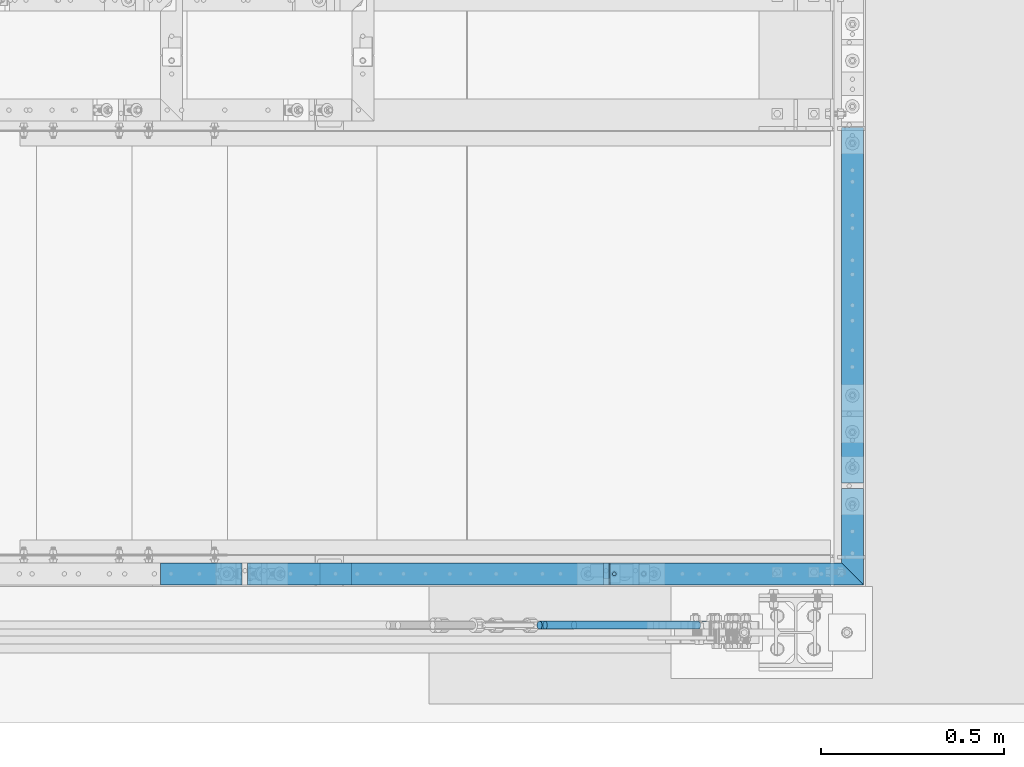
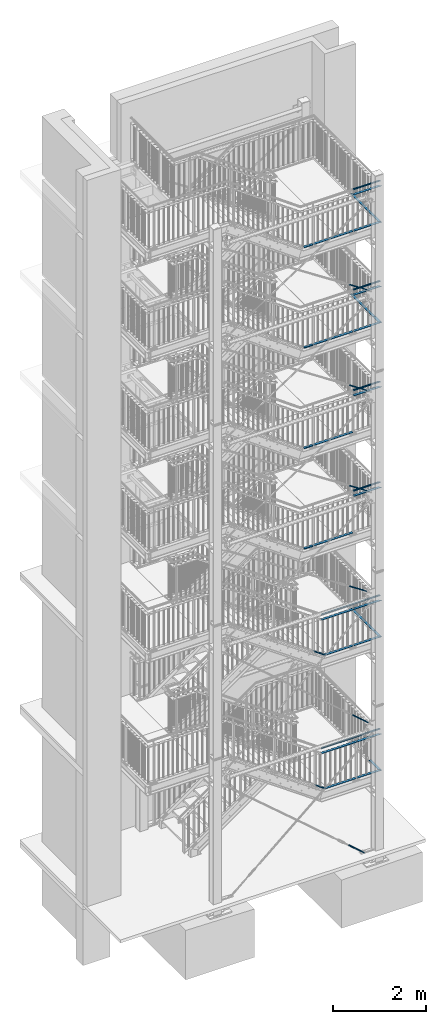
# One storey, part 141 of 831: 37 beams, 8 members, 24 openings.
"""IFC2X3 building model written with IfcOpenShell, lengths in millimetres."""

from ifc_helpers import new_model, entity, si_unit, converted_unit, frame, origin, origin_with_axes, origin_2d, origin_2d_with_axis, place, context, project, spatial, polyline, rectangle, circle, hollow_circle, outline, extrude, clip, halfspace, material, element, save


model = new_model("IFC2X3")

# Units and contexts
model_context = context("Model", 3, precision=1e-09, world=origin_with_axes())
ifc_project = project(units=[si_unit("LENGTHUNIT", "METRE", prefix="MILLI"), si_unit("AREAUNIT", "SQUARE_METRE"), si_unit("VOLUMEUNIT", "CUBIC_METRE"), converted_unit("PLANEANGLEUNIT", "DEGREE", entity("IfcPlaneAngleMeasure", 0.01745329), si_unit("PLANEANGLEUNIT", "RADIAN"), dimensions=[0, 0, 0, 0, 0, 0, 0])], contexts=[model_context])

# Site, building, storey
site_placement = place(None, origin_with_axes())
site = spatial("IfcSite", under=ifc_project, at=site_placement, Name="Site", CompositionType="ELEMENT")
building_placement = place(site_placement, origin_with_axes())
building = spatial("IfcBuilding", under=site, at=building_placement, Name="Struktur 1", CompositionType="ELEMENT")
storey_placement = place(building_placement, origin_with_axes())
storey = spatial("IfcBuildingStorey", under=building, at=storey_placement, Name="Default Storey", CompositionType="ELEMENT", Elevation=0.0)

# Beam, openings
ifc_material = material(Name="S235JR")
beam_1_placement = place(None, frame((9021.713402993, 5751.73611476, 13961.5000001), z_axis=(0.0, 1.0, 0.0), x_axis=(0.0, 0.0, -1.0)))
beam_1 = element("IfcBeam", 1, at=beam_1_placement, inside=storey, material=ifc_material, Name="Railing_Kneerail_Landing#10", ObjectType="Railing_Kneerail_Landing#10", context=model_context, shape_type="SweptSolid", body=[
    extrude(rectangle(XDim=10.0, YDim=60.0, at=origin_2d()), origin(), (0.0, 0.0, -1.0), 985.000142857),
])
opening_1_placement = place(beam_1_placement, frame((60.0, 0.0, -985.000142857), z_axis=(-1.0, 0.0, 0.0), x_axis=(0.0, -1.0, 0.0)))
element("IfcOpeningElement", 2, at=opening_1_placement, cuts=beam_1, ObjectType="Opening", context=model_context, shape_type="SweptSolid", body=[
    extrude(outline(polyline([(-30.001, 977.499142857), (30.001, 977.499142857), (30.001, 992.501142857), (-30.001, 992.501142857), (-30.001, 977.499142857)])), origin(), (0.0, 0.0, 1.0), 120.0),
])
opening_2_placement = place(beam_1_placement, frame((60.0, 0.0, -985.000142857), z_axis=(-1.0, 0.0, 0.0), x_axis=(0.0, -1.0, 0.0)))
element("IfcOpeningElement", 3, at=opening_2_placement, cuts=beam_1, ObjectType="Opening", context=model_context, shape_type="SweptSolid", body=[
    extrude(outline(polyline([(-30.001, -7.501), (30.001, -7.501), (30.001, 7.501), (-30.001, 7.501), (-30.001, -7.501)])), origin(), (0.0, 0.0, 1.0), 120.0),
])

# Beam
beam_2_placement = place(None, frame((9021.713402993, 4759.235971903, 13961.5000001), z_axis=(0.0, 1.0, 0.0), x_axis=(0.0, 0.0, -1.0)))
element("IfcBeam", 4, at=beam_2_placement, inside=storey, material=ifc_material, Name="Railing_Kneerail_Landing#11", ObjectType="Railing_Kneerail_Landing#11", context=model_context, shape_type="Clipping", body=[
    clip(extrude(rectangle(XDim=10.0, YDim=60.0, at=origin_2d()), origin(), (0.0, 0.0, -1.0), 275.510626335), halfspace(frame((13961.5000001, 2247.487508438, 2014.989922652), z_axis=(0.0, -0.707106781, 0.707106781), x_axis=(0.0, 0.707106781, 0.707106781)), True)),
])

# Beam, opening
beam_3_placement = place(None, frame((9064.725029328, 4526.736971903, 13961.5000001), z_axis=(1.0, 0.0, 0.0), x_axis=(0.0, 0.0, -1.0)))
beam_3 = element("IfcBeam", 5, at=beam_3_placement, inside=storey, material=ifc_material, Name="Railing_Kneerail_Landing#12", ObjectType="Railing_Kneerail_Landing#12", context=model_context, shape_type="Clipping", body=[
    clip(extrude(rectangle(XDim=10.0, YDim=60.0, at=origin_2d()), origin(), (0.0, 0.0, -1.0), 704.432769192), halfspace(frame((13961.5000001, 2247.487508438, -2290.500548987), z_axis=(0.0, -0.707106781, -0.707106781), x_axis=(0.0, -0.707106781, 0.707106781)), True)),
])
opening_3_placement = place(beam_3_placement, frame((5.5, 0.0, -692.432769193), z_axis=(-1.0, 0.0, 0.0), x_axis=(0.0, 0.0, 1.0)))
element("IfcOpeningElement", 6, at=opening_3_placement, cuts=beam_3, ObjectType="Opening", context=model_context, shape_type="SweptSolid", body=[
    extrude(circle(Radius=5.001, at=origin_2d_with_axis()), origin(), (0.0, 0.0, 1.0), 11.0),
])

# Beam, openings
beam_4_placement = place(None, frame((8349.792260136, 4526.736971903, 13961.5000001), z_axis=(1.0, 0.0, 0.0), x_axis=(0.0, 0.0, -1.0)))
beam_4 = element("IfcBeam", 7, at=beam_4_placement, inside=storey, material=ifc_material, Name="Railing_Kneerail_Landing#13", ObjectType="Railing_Kneerail_Landing#13", context=model_context, shape_type="SweptSolid", body=[
    extrude(rectangle(XDim=10.0, YDim=60.0, at=origin_2d()), origin(), (0.0, 0.0, -1.0), 985.000142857),
])
opening_4_placement = place(beam_4_placement, frame((60.0, 0.0, -985.000142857), z_axis=(-1.0, 0.0, 0.0), x_axis=(0.0, 0.0, 1.0)))
element("IfcOpeningElement", 8, at=opening_4_placement, cuts=beam_4, ObjectType="Opening", context=model_context, shape_type="SweptSolid", body=[
    extrude(outline(polyline([(977.499142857, 30.001), (977.499142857, -30.001), (992.501142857, -30.001), (992.501142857, 30.001), (977.499142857, 30.001)])), origin(), (0.0, 0.0, 1.0), 120.0),
])
opening_5_placement = place(beam_4_placement, frame((60.0, 0.0, -985.000142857), z_axis=(-1.0, 0.0, 0.0), x_axis=(0.0, 0.0, 1.0)))
element("IfcOpeningElement", 9, at=opening_5_placement, cuts=beam_4, ObjectType="Opening", context=model_context, shape_type="SweptSolid", body=[
    extrude(outline(polyline([(-7.501, 30.001), (-7.501, -30.001), (7.501, -30.001), (7.501, 30.001), (-7.501, 30.001)])), origin(), (0.0, 0.0, 1.0), 120.0),
])

# Beam
beam_5_placement = place(None, frame((7357.292117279, 4526.736971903, 13961.5000001), z_axis=(1.0, 0.0, 0.0), x_axis=(0.0, 0.0, -1.0)))
element("IfcBeam", 10, at=beam_5_placement, inside=storey, material=ifc_material, Name="Railing_Kneerail_Landing#14", ObjectType="Railing_Kneerail_Landing#14", context=model_context, shape_type="SweptSolid", body=[
    extrude(rectangle(XDim=10.0, YDim=60.0, at=origin_2d()), origin(), (0.0, 0.0, -1.0), 222.645131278),
])

# Beam, openings
beam_6_placement = place(None, frame((9021.713402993, 5751.736114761, 16589.0000003), z_axis=(0.0, 1.0, 0.0), x_axis=(0.0, 0.0, -1.0)))
beam_6 = element("IfcBeam", 11, at=beam_6_placement, inside=storey, material=ifc_material, Name="Railing_Kneerail_Landing#10", ObjectType="Railing_Kneerail_Landing#10", context=model_context, shape_type="SweptSolid", body=[
    extrude(rectangle(XDim=10.0, YDim=60.0, at=origin_2d()), origin(), (0.0, 0.0, -1.0), 985.000142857),
])
opening_6_placement = place(beam_6_placement, frame((60.0, 0.0, -985.000142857), z_axis=(-1.0, 0.0, 0.0), x_axis=(0.0, -1.0, 0.0)))
element("IfcOpeningElement", 12, at=opening_6_placement, cuts=beam_6, ObjectType="Opening", context=model_context, shape_type="SweptSolid", body=[
    extrude(outline(polyline([(-30.001, 977.499142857), (30.001, 977.499142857), (30.001, 992.501142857), (-30.001, 992.501142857), (-30.001, 977.499142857)])), origin(), (0.0, 0.0, 1.0), 120.0),
])
opening_7_placement = place(beam_6_placement, frame((60.0, 0.0, -985.000142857), z_axis=(-1.0, 0.0, 0.0), x_axis=(0.0, -1.0, 0.0)))
element("IfcOpeningElement", 13, at=opening_7_placement, cuts=beam_6, ObjectType="Opening", context=model_context, shape_type="SweptSolid", body=[
    extrude(outline(polyline([(-30.001, -7.501), (30.001, -7.501), (30.001, 7.501), (-30.001, 7.501), (-30.001, -7.501)])), origin(), (0.0, 0.0, 1.0), 120.0),
])

# Beam
beam_7_placement = place(None, frame((9021.713402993, 4759.235971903, 16589.0000003), z_axis=(0.0, 1.0, 0.0), x_axis=(0.0, 0.0, -1.0)))
element("IfcBeam", 14, at=beam_7_placement, inside=storey, material=ifc_material, Name="Railing_Kneerail_Landing#11", ObjectType="Railing_Kneerail_Landing#11", context=model_context, shape_type="Clipping", body=[
    clip(extrude(rectangle(XDim=10.0, YDim=60.0, at=origin_2d()), origin(), (0.0, 0.0, -1.0), 275.510626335), halfspace(frame((16589.0000003, 2247.487508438, 2014.989922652), z_axis=(0.0, -0.707106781, 0.707106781), x_axis=(0.0, 0.707106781, 0.707106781)), True)),
])

# Beam, opening
beam_8_placement = place(None, frame((9064.725029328, 4526.736971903, 16589.0000003), z_axis=(1.0, 0.0, 0.0), x_axis=(0.0, 0.0, -1.0)))
beam_8 = element("IfcBeam", 15, at=beam_8_placement, inside=storey, material=ifc_material, Name="Railing_Kneerail_Landing#12", ObjectType="Railing_Kneerail_Landing#12", context=model_context, shape_type="Clipping", body=[
    clip(extrude(rectangle(XDim=10.0, YDim=60.0, at=origin_2d()), origin(), (0.0, 0.0, -1.0), 704.432769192), halfspace(frame((16589.0000003, 2247.487508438, -2290.500548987), z_axis=(0.0, -0.707106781, -0.707106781), x_axis=(0.0, -0.707106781, 0.707106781)), True)),
])
opening_8_placement = place(beam_8_placement, frame((5.5, 0.0, -692.432769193), z_axis=(-1.0, 0.0, 0.0), x_axis=(0.0, 0.0, 1.0)))
element("IfcOpeningElement", 16, at=opening_8_placement, cuts=beam_8, ObjectType="Opening", context=model_context, shape_type="SweptSolid", body=[
    extrude(circle(Radius=5.001, at=origin_2d_with_axis()), origin(), (0.0, 0.0, 1.0), 11.0),
])

# Beam, openings
beam_9_placement = place(None, frame((8349.792260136, 4526.736971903, 16589.0000003), z_axis=(1.0, 0.0, 0.0), x_axis=(0.0, 0.0, -1.0)))
beam_9 = element("IfcBeam", 17, at=beam_9_placement, inside=storey, material=ifc_material, Name="Railing_Kneerail_Landing#13", ObjectType="Railing_Kneerail_Landing#13", context=model_context, shape_type="SweptSolid", body=[
    extrude(rectangle(XDim=10.0, YDim=60.0, at=origin_2d()), origin(), (0.0, 0.0, -1.0), 985.000142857),
])
opening_9_placement = place(beam_9_placement, frame((60.0, 0.0, -985.000142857), z_axis=(-1.0, 0.0, 0.0), x_axis=(0.0, 0.0, 1.0)))
element("IfcOpeningElement", 18, at=opening_9_placement, cuts=beam_9, ObjectType="Opening", context=model_context, shape_type="SweptSolid", body=[
    extrude(outline(polyline([(977.499142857, 30.001), (977.499142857, -30.001), (992.501142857, -30.001), (992.501142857, 30.001), (977.499142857, 30.001)])), origin(), (0.0, 0.0, 1.0), 120.0),
])
opening_10_placement = place(beam_9_placement, frame((60.0, 0.0, -985.000142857), z_axis=(-1.0, 0.0, 0.0), x_axis=(0.0, 0.0, 1.0)))
element("IfcOpeningElement", 19, at=opening_10_placement, cuts=beam_9, ObjectType="Opening", context=model_context, shape_type="SweptSolid", body=[
    extrude(outline(polyline([(-7.501, 30.001), (-7.501, -30.001), (7.501, -30.001), (7.501, 30.001), (-7.501, 30.001)])), origin(), (0.0, 0.0, 1.0), 120.0),
])

# Beams
beam_10_placement = place(None, frame((7357.292117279, 4526.736971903, 16589.0000003), z_axis=(1.0, 0.0, 0.0), x_axis=(0.0, 0.0, -1.0)))
element("IfcBeam", 20, at=beam_10_placement, inside=storey, material=ifc_material, Name="Railing_Kneerail_Landing#14", ObjectType="Railing_Kneerail_Landing#14", context=model_context, shape_type="SweptSolid", body=[
    extrude(rectangle(XDim=10.0, YDim=60.0, at=origin_2d()), origin(), (0.0, 0.0, -1.0), 222.43350809),
])
beam_11_placement = place(None, frame((8437.674109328, 4526.736971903, 3194.8526312), z_axis=(1.0, 0.0, 0.0), x_axis=(0.0, 0.0, -1.0)))
element("IfcBeam", 21, at=beam_11_placement, inside=storey, material=ifc_material, Name="Railing_Kneerail_Landing#1011", ObjectType="Railing_Kneerail_Landing#1011", context=model_context, shape_type="SweptSolid", body=[
    extrude(rectangle(XDim=10.0, YDim=60.0, at=origin_2d()), origin(), (0.0, 0.0, -1.0), 867.736420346),
])
beam_12_placement = place(None, frame((9055.313402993, 4535.536971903, 3321.0526312), z_axis=(1.0, 0.0, 0.0), x_axis=(0.0, 0.0, -1.0)))
element("IfcBeam", 22, at=beam_12_placement, inside=storey, material=ifc_material, Name="Railing_Handrail_Landing#5", ObjectType="Railing_Handrail_Landing#5", context=model_context, shape_type="Clipping", body=[
    clip(extrude(hollow_circle(Radius=21.2, WallThickness=3.2, at=origin_2d()), origin(), (0.0, 0.0, -1.0), 614.639293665), halfspace(frame((3321.0526312, 2238.687508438, -2281.088922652), z_axis=(0.0, -0.707106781, -0.707106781), x_axis=(0.0, -0.707106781, 0.707106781)), True)),
])
beam_13_placement = place(None, frame((8437.674109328, 4535.536971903, 3321.0526312), z_axis=(1.0, 0.0, 0.0), x_axis=(0.0, 0.0, -1.0)))
element("IfcBeam", 23, at=beam_13_placement, inside=storey, material=ifc_material, Name="Railing_Handrail_Landing#5", ObjectType="Railing_Handrail_Landing#5", context=model_context, shape_type="Clipping", body=[
    clip(extrude(hollow_circle(Radius=21.2, WallThickness=3.2, at=origin_2d()), origin(), (0.0, 0.0, -1.0), 892.436103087), halfspace(frame((5210.397729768, -4535.536971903, -2526.250453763), z_axis=(0.304437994, 0.0, 0.952532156), x_axis=(0.0, 1.0, 0.0)), True)),
])

# Beam, opening
beam_14_placement = place(None, frame((9064.725029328, 4526.736971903, 3194.8526312), z_axis=(1.0, 0.0, 0.0), x_axis=(0.0, 0.0, -1.0)))
beam_14 = element("IfcBeam", 24, at=beam_14_placement, inside=storey, material=ifc_material, Name="Railing_Kneerail_Landing#10", ObjectType="Railing_Kneerail_Landing#10", context=model_context, shape_type="Clipping", body=[
    clip(extrude(rectangle(XDim=10.0, YDim=60.0, at=origin_2d()), origin(), (0.0, 0.0, -1.0), 624.05092), halfspace(frame((3194.8526312, 2247.487508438, -2290.500548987), z_axis=(0.0, -0.707106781, -0.707106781), x_axis=(0.0, -0.707106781, 0.707106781)), True)),
])
opening_11_placement = place(beam_14_placement, frame((5.5, 0.0, -612.050920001), z_axis=(-1.0, 0.0, 0.0), x_axis=(0.0, 0.0, 1.0)))
element("IfcOpeningElement", 25, at=opening_11_placement, cuts=beam_14, ObjectType="Opening", context=model_context, shape_type="SweptSolid", body=[
    extrude(circle(Radius=5.001, at=origin_2d_with_axis()), origin(), (0.0, 0.0, 1.0), 11.0),
])

# Beams
beam_15_placement = place(None, frame((9055.313402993, 4535.536971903, 6814.8947367), z_axis=(1.0, 0.0, 0.0), x_axis=(0.0, 0.0, -1.0)))
element("IfcBeam", 26, at=beam_15_placement, inside=storey, material=ifc_material, Name="Railing_Handrail_Landing#6", ObjectType="Railing_Handrail_Landing#6", context=model_context, shape_type="Clipping", body=[
    clip(extrude(hollow_circle(Radius=21.2, WallThickness=3.2, at=origin_2d()), origin(), (0.0, 0.0, -1.0), 695.021142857), halfspace(frame((6814.8947367, 2238.687508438, -2281.088922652), z_axis=(0.0, -0.707106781, -0.707106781), x_axis=(0.0, -0.707106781, 0.707106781)), True)),
])
beam_16_placement = place(None, frame((8357.292260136, 4535.536971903, 6814.8947367), z_axis=(1.0, 0.0, 0.0), x_axis=(0.0, 0.0, -1.0)))
element("IfcBeam", 27, at=beam_16_placement, inside=storey, material=ifc_material, Name="Railing_Handrail_Landing#6", ObjectType="Railing_Handrail_Landing#6", context=model_context, shape_type="Clipping", body=[
    clip(extrude(hollow_circle(Radius=21.2, WallThickness=3.2, at=origin_2d()), origin(), (0.0, 0.0, -1.0), 812.024564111), halfspace(frame((8373.746157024, -4535.536971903, -3429.538535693), z_axis=(0.301609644, 0.0, 0.953431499), x_axis=(0.0, 1.0, 0.0)), True)),
])

# Beam, opening
beam_17_placement = place(None, frame((9064.725029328, 4526.736971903, 6688.6947367), z_axis=(1.0, 0.0, 0.0), x_axis=(0.0, 0.0, -1.0)))
beam_17 = element("IfcBeam", 28, at=beam_17_placement, inside=storey, material=ifc_material, Name="Railing_Kneerail_Landing#1012", ObjectType="Railing_Kneerail_Landing#1012", context=model_context, shape_type="Clipping", body=[
    clip(extrude(rectangle(XDim=10.0, YDim=60.0, at=origin_2d()), origin(), (0.0, 0.0, -1.0), 704.432769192), halfspace(frame((6688.6947367, 2247.487508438, -2290.500548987), z_axis=(0.0, -0.707106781, -0.707106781), x_axis=(0.0, -0.707106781, 0.707106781)), True)),
])
opening_12_placement = place(beam_17_placement, frame((5.5, 0.0, -692.432769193), z_axis=(-1.0, 0.0, 0.0), x_axis=(0.0, 0.0, 1.0)))
element("IfcOpeningElement", 29, at=opening_12_placement, cuts=beam_17, ObjectType="Opening", context=model_context, shape_type="SweptSolid", body=[
    extrude(circle(Radius=5.001, at=origin_2d_with_axis()), origin(), (0.0, 0.0, 1.0), 11.0),
])

# Beam
beam_18_placement = place(None, frame((8357.292260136, 4526.736971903, 6688.6947367), z_axis=(1.0, 0.0, 0.0), x_axis=(0.0, 0.0, -1.0)))
element("IfcBeam", 30, at=beam_18_placement, inside=storey, material=ifc_material, Name="Railing_Kneerail_Landing#1012", ObjectType="Railing_Kneerail_Landing#1012", context=model_context, shape_type="SweptSolid", body=[
    extrude(rectangle(XDim=10.0, YDim=60.0, at=origin_2d()), origin(), (0.0, 0.0, -1.0), 787.285290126),
])

# Beam, opening
beam_19_placement = place(None, frame((9064.725029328, 4526.736971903, 9649.8), z_axis=(1.0, 0.0, 0.0), x_axis=(0.0, 0.0, -1.0)))
beam_19 = element("IfcBeam", 31, at=beam_19_placement, inside=storey, material=ifc_material, Name="Railing_Kneerail_Landing#1014", ObjectType="Railing_Kneerail_Landing#1014", context=model_context, shape_type="Clipping", body=[
    clip(extrude(rectangle(XDim=10.0, YDim=60.0, at=origin_2d()), origin(), (0.0, 0.0, -1.0), 704.432769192), halfspace(frame((9649.8, 2247.487508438, -2290.500548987), z_axis=(0.0, -0.707106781, -0.707106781), x_axis=(0.0, -0.707106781, 0.707106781)), True)),
])
opening_13_placement = place(beam_19_placement, frame((5.5, 0.0, -692.432769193), z_axis=(-1.0, 0.0, 0.0), x_axis=(0.0, 0.0, 1.0)))
element("IfcOpeningElement", 32, at=opening_13_placement, cuts=beam_19, ObjectType="Opening", context=model_context, shape_type="SweptSolid", body=[
    extrude(circle(Radius=5.001, at=origin_2d_with_axis()), origin(), (0.0, 0.0, 1.0), 11.0),
])

# Beam
beam_20_placement = place(None, frame((9055.313402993, 4535.536971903, 9776.0), z_axis=(1.0, 0.0, 0.0), x_axis=(0.0, 0.0, -1.0)))
element("IfcBeam", 33, at=beam_20_placement, inside=storey, material=ifc_material, Name="Railing_Handrail_Landing#6", ObjectType="Railing_Handrail_Landing#6", context=model_context, shape_type="Clipping", body=[
    clip(extrude(hollow_circle(Radius=21.2, WallThickness=3.2, at=origin_2d()), origin(), (0.0, 0.0, -1.0), 695.021142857), halfspace(frame((9776.0, 2238.687508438, -2281.088922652), z_axis=(0.0, -0.707106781, -0.707106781), x_axis=(0.0, -0.707106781, 0.707106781)), True)),
])

# Beam, opening
beam_21_placement = place(None, frame((9064.725029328, 4526.736971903, 12279.3000003), z_axis=(1.0, 0.0, 0.0), x_axis=(0.0, 0.0, -1.0)))
beam_21 = element("IfcBeam", 34, at=beam_21_placement, inside=storey, material=ifc_material, Name="Railing_Kneerail_Landing#1012", ObjectType="Railing_Kneerail_Landing#1012", context=model_context, shape_type="Clipping", body=[
    clip(extrude(rectangle(XDim=10.0, YDim=60.0, at=origin_2d()), origin(), (0.0, 0.0, -1.0), 704.432769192), halfspace(frame((12279.3000003, 2247.487508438, -2290.500548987), z_axis=(0.0, -0.707106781, -0.707106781), x_axis=(0.0, -0.707106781, 0.707106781)), True)),
])
opening_14_placement = place(beam_21_placement, frame((5.5, 0.0, -692.432769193), z_axis=(-1.0, 0.0, 0.0), x_axis=(0.0, 0.0, 1.0)))
element("IfcOpeningElement", 35, at=opening_14_placement, cuts=beam_21, ObjectType="Opening", context=model_context, shape_type="SweptSolid", body=[
    extrude(circle(Radius=5.001, at=origin_2d_with_axis()), origin(), (0.0, 0.0, 1.0), 11.0),
])

# Beam
beam_22_placement = place(None, frame((9055.313402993, 4535.536971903, 12405.5000003), z_axis=(1.0, 0.0, 0.0), x_axis=(0.0, 0.0, -1.0)))
element("IfcBeam", 36, at=beam_22_placement, inside=storey, material=ifc_material, Name="Railing_Handrail_Landing#6", ObjectType="Railing_Handrail_Landing#6", context=model_context, shape_type="Clipping", body=[
    clip(extrude(hollow_circle(Radius=21.2, WallThickness=3.2, at=origin_2d()), origin(), (0.0, 0.0, -1.0), 695.021142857), halfspace(frame((12405.5000003, 2238.687508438, -2281.088922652), z_axis=(0.0, -0.707106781, -0.707106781), x_axis=(0.0, -0.707106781, 0.707106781)), True)),
])

# Beam, opening
beam_23_placement = place(None, frame((9064.725029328, 4526.736971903, 14910.3000001), z_axis=(1.0, 0.0, 0.0), x_axis=(0.0, 0.0, -1.0)))
beam_23 = element("IfcBeam", 37, at=beam_23_placement, inside=storey, material=ifc_material, Name="Railing_Kneerail_Landing#1014", ObjectType="Railing_Kneerail_Landing#1014", context=model_context, shape_type="Clipping", body=[
    clip(extrude(rectangle(XDim=10.0, YDim=60.0, at=origin_2d()), origin(), (0.0, 0.0, -1.0), 704.432769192), halfspace(frame((14910.3000001, 2247.487508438, -2290.500548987), z_axis=(0.0, -0.707106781, -0.707106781), x_axis=(0.0, -0.707106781, 0.707106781)), True)),
])
opening_15_placement = place(beam_23_placement, frame((5.5, 0.0, -692.432769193), z_axis=(-1.0, 0.0, 0.0), x_axis=(0.0, 0.0, 1.0)))
element("IfcOpeningElement", 38, at=opening_15_placement, cuts=beam_23, ObjectType="Opening", context=model_context, shape_type="SweptSolid", body=[
    extrude(circle(Radius=5.001, at=origin_2d_with_axis()), origin(), (0.0, 0.0, 1.0), 11.0),
])

# Beam
beam_24_placement = place(None, frame((9055.313402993, 4535.536971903, 15036.5000001), z_axis=(1.0, 0.0, 0.0), x_axis=(0.0, 0.0, -1.0)))
element("IfcBeam", 39, at=beam_24_placement, inside=storey, material=ifc_material, Name="Railing_Handrail_Landing#6", ObjectType="Railing_Handrail_Landing#6", context=model_context, shape_type="Clipping", body=[
    clip(extrude(hollow_circle(Radius=21.2, WallThickness=3.2, at=origin_2d()), origin(), (0.0, 0.0, -1.0), 695.021142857), halfspace(frame((15036.5000001, 2238.687508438, -2281.088922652), z_axis=(0.0, -0.707106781, -0.707106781), x_axis=(0.0, -0.707106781, 0.707106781)), True)),
])

# Beam, opening
beam_25_placement = place(None, frame((9064.725029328, 4526.736971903, 17537.8000003), z_axis=(1.0, 0.0, 0.0), x_axis=(0.0, 0.0, -1.0)))
beam_25 = element("IfcBeam", 40, at=beam_25_placement, inside=storey, material=ifc_material, Name="Railing_Kneerail_Landing#1012", ObjectType="Railing_Kneerail_Landing#1012", context=model_context, shape_type="Clipping", body=[
    clip(extrude(rectangle(XDim=10.0, YDim=60.0, at=origin_2d()), origin(), (0.0, 0.0, -1.0), 704.432769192), halfspace(frame((17537.8000003, 2247.487508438, -2290.500548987), z_axis=(0.0, -0.707106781, -0.707106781), x_axis=(0.0, -0.707106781, 0.707106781)), True)),
])
opening_16_placement = place(beam_25_placement, frame((5.5, 0.0, -692.432769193), z_axis=(-1.0, 0.0, 0.0), x_axis=(0.0, 0.0, 1.0)))
element("IfcOpeningElement", 41, at=opening_16_placement, cuts=beam_25, ObjectType="Opening", context=model_context, shape_type="SweptSolid", body=[
    extrude(circle(Radius=5.001, at=origin_2d_with_axis()), origin(), (0.0, 0.0, 1.0), 11.0),
])

# Beams
beam_26_placement = place(None, frame((9055.313402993, 4535.536971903, 17664.0000003), z_axis=(1.0, 0.0, 0.0), x_axis=(0.0, 0.0, -1.0)))
element("IfcBeam", 42, at=beam_26_placement, inside=storey, material=ifc_material, Name="Railing_Handrail_Landing#6", ObjectType="Railing_Handrail_Landing#6", context=model_context, shape_type="Clipping", body=[
    clip(extrude(hollow_circle(Radius=21.2, WallThickness=3.2, at=origin_2d()), origin(), (0.0, 0.0, -1.0), 695.021142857), halfspace(frame((17664.0000003, 2238.687508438, -2281.088922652), z_axis=(0.0, -0.707106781, -0.707106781), x_axis=(0.0, -0.707106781, 0.707106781)), True)),
])
beam_27_placement = place(None, frame((9021.713402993, 4955.774795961, 2246.0526312), z_axis=(0.0, 1.0, 0.0), x_axis=(0.0, 0.0, -1.0)))
element("IfcBeam", 43, at=beam_27_placement, inside=storey, material=ifc_material, Name="Railing_Kneerail_Landing#9", ObjectType="Railing_Kneerail_Landing#9", context=model_context, shape_type="Clipping", body=[
    clip(extrude(rectangle(XDim=10.0, YDim=60.0, at=origin_2d()), origin(), (0.0, 0.0, -1.0), 472.049450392), halfspace(frame((2246.0526312, 2247.487508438, 1818.451098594), z_axis=(0.0, -0.707106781, 0.707106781), x_axis=(0.0, 0.707106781, 0.707106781)), True)),
])

# Beam, opening
beam_28_placement = place(None, frame((9064.725029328, 4526.736971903, 2246.0526312), z_axis=(1.0, 0.0, 0.0), x_axis=(0.0, 0.0, -1.0)))
beam_28 = element("IfcBeam", 44, at=beam_28_placement, inside=storey, material=ifc_material, Name="Railing_Kneerail_Landing#10", ObjectType="Railing_Kneerail_Landing#10", context=model_context, shape_type="Clipping", body=[
    clip(extrude(rectangle(XDim=10.0, YDim=60.0, at=origin_2d()), origin(), (0.0, 0.0, -1.0), 624.05092), halfspace(frame((2246.0526312, 2247.487508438, -2290.500548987), z_axis=(0.0, -0.707106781, -0.707106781), x_axis=(0.0, -0.707106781, 0.707106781)), True)),
])
opening_17_placement = place(beam_28_placement, frame((5.5, 0.0, -612.050920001), z_axis=(-1.0, 0.0, 0.0), x_axis=(0.0, 0.0, 1.0)))
element("IfcOpeningElement", 45, at=opening_17_placement, cuts=beam_28, ObjectType="Opening", context=model_context, shape_type="SweptSolid", body=[
    extrude(circle(Radius=5.001, at=origin_2d_with_axis()), origin(), (0.0, 0.0, 1.0), 11.0),
])

# Beam
beam_29_placement = place(None, frame((8422.674109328, 4526.736971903, 2246.0526312), z_axis=(1.0, 0.0, 0.0), x_axis=(0.0, 0.0, -1.0)))
element("IfcBeam", 46, at=beam_29_placement, inside=storey, material=ifc_material, Name="Railing_Kneerail_Landing#11", ObjectType="Railing_Kneerail_Landing#11", context=model_context, shape_type="SweptSolid", body=[
    extrude(rectangle(XDim=10.0, YDim=60.0, at=origin_2d()), origin(), (0.0, 0.0, -1.0), 767.403817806),
])

# Member
member_1_placement = place(None, frame((7652.370421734, 4526.736971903, 2246.979456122), z_axis=(0.814635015, 0.0, -0.579973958), x_axis=(-0.579973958, 0.0, -0.814635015)))
element("IfcMember", 47, at=member_1_placement, inside=storey, material=ifc_material, Name="Railing_Kneerail_Stair#12", ObjectType="Railing_Kneerail_Stair#12", context=model_context, shape_type="SweptSolid", body=[
    extrude(rectangle(XDim=10.0, YDim=60.0, at=origin_2d()), origin(), (0.0, 0.0, -1.0), 276.042099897),
])

# Beam, openings
beam_30_placement = place(None, frame((9021.713402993, 5751.736114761, 5739.8947367), z_axis=(0.0, 1.0, 0.0), x_axis=(0.0, 0.0, -1.0)))
beam_30 = element("IfcBeam", 48, at=beam_30_placement, inside=storey, material=ifc_material, Name="Railing_Kneerail_Landing#10", ObjectType="Railing_Kneerail_Landing#10", context=model_context, shape_type="SweptSolid", body=[
    extrude(rectangle(XDim=10.0, YDim=60.0, at=origin_2d()), origin(), (0.0, 0.0, -1.0), 985.000142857),
])
opening_18_placement = place(beam_30_placement, frame((60.0, 0.0, -985.000142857), z_axis=(-1.0, 0.0, 0.0), x_axis=(0.0, -1.0, 0.0)))
element("IfcOpeningElement", 49, at=opening_18_placement, cuts=beam_30, ObjectType="Opening", context=model_context, shape_type="SweptSolid", body=[
    extrude(outline(polyline([(-30.001, 977.499142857), (30.001, 977.499142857), (30.001, 992.501142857), (-30.001, 992.501142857), (-30.001, 977.499142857)])), origin(), (0.0, 0.0, 1.0), 120.0),
])
opening_19_placement = place(beam_30_placement, frame((60.0, 0.0, -985.000142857), z_axis=(-1.0, 0.0, 0.0), x_axis=(0.0, -1.0, 0.0)))
element("IfcOpeningElement", 50, at=opening_19_placement, cuts=beam_30, ObjectType="Opening", context=model_context, shape_type="SweptSolid", body=[
    extrude(outline(polyline([(-30.001, -7.501), (30.001, -7.501), (30.001, 7.501), (-30.001, 7.501), (-30.001, -7.501)])), origin(), (0.0, 0.0, 1.0), 120.0),
])

# Beam
beam_31_placement = place(None, frame((9021.713402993, 4759.235971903, 5739.8947367), z_axis=(0.0, 1.0, 0.0), x_axis=(0.0, 0.0, -1.0)))
element("IfcBeam", 51, at=beam_31_placement, inside=storey, material=ifc_material, Name="Railing_Kneerail_Landing#11", ObjectType="Railing_Kneerail_Landing#11", context=model_context, shape_type="Clipping", body=[
    clip(extrude(rectangle(XDim=10.0, YDim=60.0, at=origin_2d()), origin(), (0.0, 0.0, -1.0), 275.510626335), halfspace(frame((5739.8947367, 2247.487508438, 2014.989922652), z_axis=(0.0, -0.707106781, 0.707106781), x_axis=(0.0, 0.707106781, 0.707106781)), True)),
])

# Beam, opening
beam_32_placement = place(None, frame((9064.725029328, 4526.736971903, 5739.8947367), z_axis=(1.0, 0.0, 0.0), x_axis=(0.0, 0.0, -1.0)))
beam_32 = element("IfcBeam", 52, at=beam_32_placement, inside=storey, material=ifc_material, Name="Railing_Kneerail_Landing#12", ObjectType="Railing_Kneerail_Landing#12", context=model_context, shape_type="Clipping", body=[
    clip(extrude(rectangle(XDim=10.0, YDim=60.0, at=origin_2d()), origin(), (0.0, 0.0, -1.0), 704.432769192), halfspace(frame((5739.8947367, 2247.487508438, -2290.500548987), z_axis=(0.0, -0.707106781, -0.707106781), x_axis=(0.0, -0.707106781, 0.707106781)), True)),
])
opening_20_placement = place(beam_32_placement, frame((5.5, 0.0, -692.432769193), z_axis=(-1.0, 0.0, 0.0), x_axis=(0.0, 0.0, 1.0)))
element("IfcOpeningElement", 53, at=opening_20_placement, cuts=beam_32, ObjectType="Opening", context=model_context, shape_type="SweptSolid", body=[
    extrude(circle(Radius=5.001, at=origin_2d_with_axis()), origin(), (0.0, 0.0, 1.0), 11.0),
])

# Beam
beam_33_placement = place(None, frame((8342.292260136, 4526.736971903, 5739.8947367), z_axis=(1.0, 0.0, 0.0), x_axis=(0.0, 0.0, -1.0)))
element("IfcBeam", 54, at=beam_33_placement, inside=storey, material=ifc_material, Name="Railing_Kneerail_Landing#13", ObjectType="Railing_Kneerail_Landing#13", context=model_context, shape_type="SweptSolid", body=[
    extrude(rectangle(XDim=10.0, YDim=60.0, at=origin_2d()), origin(), (0.0, 0.0, -1.0), 686.538919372),
])

# Members
member_2_placement = place(None, frame((7652.877699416, 4526.736971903, 5740.804420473), z_axis=(0.818063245, 0.0, -0.57512827), x_axis=(-0.57512827, 0.0, -0.818063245)))
element("IfcMember", 55, at=member_2_placement, inside=storey, material=ifc_material, Name="Railing_Kneerail_Stair#14", ObjectType="Railing_Kneerail_Stair#14", context=model_context, shape_type="SweptSolid", body=[
    extrude(rectangle(XDim=10.0, YDim=60.0, at=origin_2d()), origin(), (0.0, 0.0, -1.0), 339.472458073),
])
for number, where, z_axis, x_axis in (
    (56, (8547.510615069, 4386.736971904, 334.785043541), (-0.757867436, 0.0, 0.652408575), (-0.652408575, 0.0, -0.757867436)),
    (57, (8640.321727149, 4386.736971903, 3708.074383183), (-0.755906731, 0.0, 0.654679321), (-0.654679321, 0.0, -0.755906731)),
    (58, (8601.628734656, 4386.736971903, 7158.990731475), (-0.83600607, 0.0, 0.548720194), (-0.548720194, 0.0, -0.83600607)),
    (59, (8601.507201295, 4386.736971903, 9790.805366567), (-0.836491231, 0.0, 0.547980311), (-0.547980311, 0.0, -0.836491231)),
    (60, (8601.719606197, 4386.736971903, 12418.129336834), (-0.835719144, 0.0, 0.549157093), (-0.549157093, 0.0, -0.835719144)),
    (61, (8601.264681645, 4386.736971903, 15052.435320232), (-0.837153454, 0.0, 0.546968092), (-0.546968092, 0.0, -0.837153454)),
):
    element("IfcMember", number, at=place(None, frame(where, z_axis=z_axis, x_axis=x_axis)), inside=storey, material=ifc_material, Name="-", ObjectType="-", context=model_context, shape_type="SweptSolid", body=[
        extrude(circle(Radius=11.0, at=origin_2d()), origin(), (0.0, 0.0, 1.0), 500.0),
    ])

# Beam, openings
beam_34_placement = place(None, frame((8349.792260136, 4526.736971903, 8701.0), z_axis=(1.0, 0.0, 0.0), x_axis=(0.0, 0.0, -1.0)))
beam_34 = element("IfcBeam", 62, at=beam_34_placement, inside=storey, material=ifc_material, Name="Railing_Kneerail_Landing#13", ObjectType="Railing_Kneerail_Landing#13", context=model_context, shape_type="SweptSolid", body=[
    extrude(rectangle(XDim=10.0, YDim=60.0, at=origin_2d()), origin(), (0.0, 0.0, -1.0), 985.000142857),
])
opening_21_placement = place(beam_34_placement, frame((60.0, 0.0, -985.000142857), z_axis=(-1.0, 0.0, 0.0), x_axis=(0.0, 0.0, 1.0)))
element("IfcOpeningElement", 63, at=opening_21_placement, cuts=beam_34, ObjectType="Opening", context=model_context, shape_type="SweptSolid", body=[
    extrude(outline(polyline([(977.499142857, 30.001), (977.499142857, -30.001), (992.501142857, -30.001), (992.501142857, 30.001), (977.499142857, 30.001)])), origin(), (0.0, 0.0, 1.0), 120.0),
])
opening_22_placement = place(beam_34_placement, frame((60.0, 0.0, -985.000142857), z_axis=(-1.0, 0.0, 0.0), x_axis=(0.0, 0.0, 1.0)))
element("IfcOpeningElement", 64, at=opening_22_placement, cuts=beam_34, ObjectType="Opening", context=model_context, shape_type="SweptSolid", body=[
    extrude(outline(polyline([(-7.501, 30.001), (-7.501, -30.001), (7.501, -30.001), (7.501, 30.001), (-7.501, 30.001)])), origin(), (0.0, 0.0, 1.0), 120.0),
])

# Beam
beam_35_placement = place(None, frame((7357.292117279, 4526.736971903, 8701.0), z_axis=(1.0, 0.0, 0.0), x_axis=(0.0, 0.0, -1.0)))
element("IfcBeam", 65, at=beam_35_placement, inside=storey, material=ifc_material, Name="Railing_Kneerail_Landing#14", ObjectType="Railing_Kneerail_Landing#14", context=model_context, shape_type="SweptSolid", body=[
    extrude(rectangle(XDim=10.0, YDim=60.0, at=origin_2d()), origin(), (0.0, 0.0, -1.0), 222.603069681),
])

# Beam, openings
beam_36_placement = place(None, frame((8349.792260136, 4526.736971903, 11330.5000003), z_axis=(1.0, 0.0, 0.0), x_axis=(0.0, 0.0, -1.0)))
beam_36 = element("IfcBeam", 66, at=beam_36_placement, inside=storey, material=ifc_material, Name="Railing_Kneerail_Landing#13", ObjectType="Railing_Kneerail_Landing#13", context=model_context, shape_type="SweptSolid", body=[
    extrude(rectangle(XDim=10.0, YDim=60.0, at=origin_2d()), origin(), (0.0, 0.0, -1.0), 985.000142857),
])
opening_23_placement = place(beam_36_placement, frame((60.0, 0.0, -985.000142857), z_axis=(-1.0, 0.0, 0.0), x_axis=(0.0, 0.0, 1.0)))
element("IfcOpeningElement", 67, at=opening_23_placement, cuts=beam_36, ObjectType="Opening", context=model_context, shape_type="SweptSolid", body=[
    extrude(outline(polyline([(977.499142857, 30.001), (977.499142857, -30.001), (992.501142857, -30.001), (992.501142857, 30.001), (977.499142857, 30.001)])), origin(), (0.0, 0.0, 1.0), 120.0),
])
opening_24_placement = place(beam_36_placement, frame((60.0, 0.0, -985.000142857), z_axis=(-1.0, 0.0, 0.0), x_axis=(0.0, 0.0, 1.0)))
element("IfcOpeningElement", 68, at=opening_24_placement, cuts=beam_36, ObjectType="Opening", context=model_context, shape_type="SweptSolid", body=[
    extrude(outline(polyline([(-7.501, 30.001), (-7.501, -30.001), (7.501, -30.001), (7.501, 30.001), (-7.501, 30.001)])), origin(), (0.0, 0.0, 1.0), 120.0),
])

# Beam
beam_37_placement = place(None, frame((7357.292117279, 4526.736971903, 11330.5000003), z_axis=(1.0, 0.0, 0.0), x_axis=(0.0, 0.0, -1.0)))
element("IfcBeam", 69, at=beam_37_placement, inside=storey, material=ifc_material, Name="Railing_Kneerail_Landing#14", ObjectType="Railing_Kneerail_Landing#14", context=model_context, shape_type="SweptSolid", body=[
    extrude(rectangle(XDim=10.0, YDim=60.0, at=origin_2d()), origin(), (0.0, 0.0, -1.0), 222.532675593),
])

save(model, "model.ifc")
